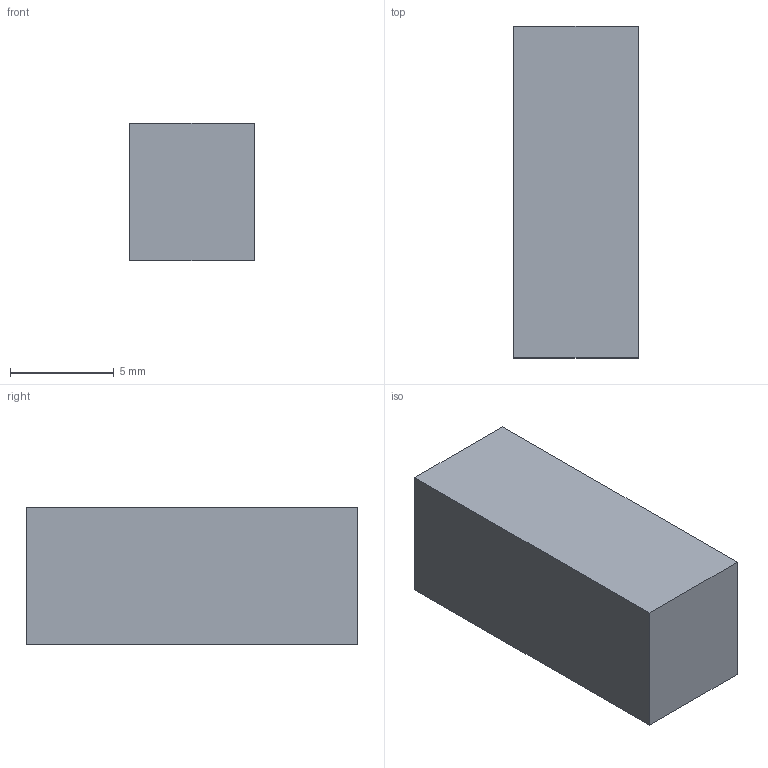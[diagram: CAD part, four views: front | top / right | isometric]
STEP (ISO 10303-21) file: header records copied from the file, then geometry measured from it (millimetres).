
FILE_DESCRIPTION(('Open CASCADE Model'),'2;1');
FILE_NAME('ADD_P01_MIC_HARNESS_SADDLE','2026-09-15T14:21:06',('Author'), ('Open CASCADE'),'Open CASCADE STEP processor 7.9','build123d', 'Unknown');
FILE_SCHEMA(('AUTOMOTIVE_DESIGN { 1 0 10303 214 1 1 1 1 }'));
Length unit declared in the file: millimetre
Products named in the file (1): ADD_P01_MIC_HARNESS_SADDLE
Bounding box: 6 x 16 x 6.62 mm (x, y, z)
Volume: 636 mm3; surface area: 483.5 mm2
Topology: 1 solids, 1 shells, 6 faces, 12 edges, 8 vertices
Faces by surface type: plane 6
Entity records: 322 total; most frequent: CARTESIAN_POINT 51, DIRECTION 50, LINE 36, VECTOR 36, ORIENTED_EDGE 24, PCURVE 24, DEFINITIONAL_REPRESENTATION 24, EDGE_CURVE 12
